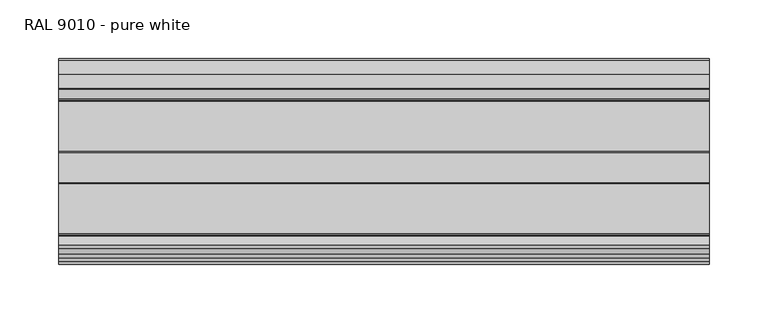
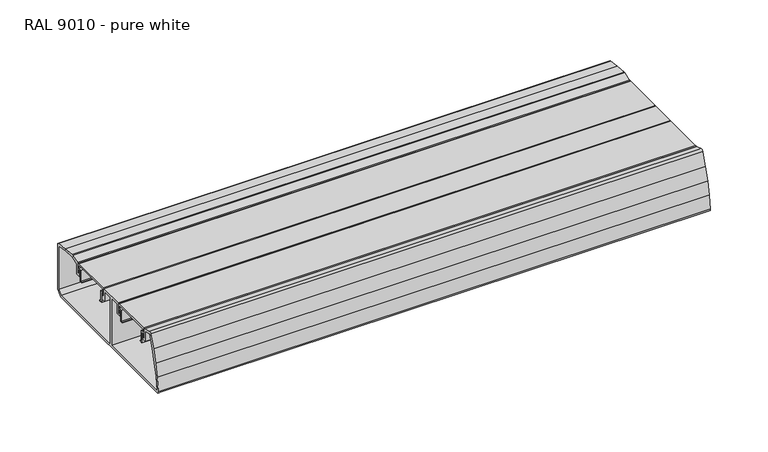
"""IFC4 building model written with IfcOpenShell, lengths in millimetres: proxy geometry, Electrical_Installations_Hager_GBD-Curved-Lid-End-Cap : RAL 9010 - pure white."""

from ifc_helpers import new_model, si_unit, point, frame, frame_2d, origin, place, context, project, spatial, polyline, circle_curve, trimmed, segment, composite_curve, outline, extrude, source, transform, mapped, element, save


def ral_9010_pure_white_fda1ee66(model_context):
    return source(origin(), model_context, "Body", "SweptSolid", [
        extrude(outline(composite_curve([segment(polyline([(-85.2368553, -25.0), (-6.25, -25.0), (-6.25, 25.0), (-15.95, 25.0), (-15.95, 14.96875), (-20.25, 14.96875), (-20.25, 18.7637258), (-19.25, 18.7637258), (-19.25, 16.3), (-17.75, 16.3), (-17.75, 27.0), (7.25, 27.0), (7.25, 16.3), (8.75, 16.3), (8.75, 18.7441115), (9.75, 18.7441115), (9.75, 14.5), (5.45, 14.5), (5.45, 25.0), (-4.25, 25.0), (-4.25, -25.0), (81.2473088, -25.0), (85.2, -21.0473088), (85.2, 25.0790901), (73.4084992, 26.7822965), (61.8792753, 27.7103781), (54.05, 25.1664923), (54.05, 14.5), (49.75, 14.5), (49.75, 18.7391101), (50.75, 18.7391101), (50.75, 16.3), (52.25, 16.3), (52.25, 26.2703589)]), True, "CONTINUOUS"), segment(trimmed(circle_curve(frame_2d((53.2542649, 26.2703589)), 1.0042649), [point((52.25, 26.2703589))], [point((52.94393, 27.2254715))], False, "CARTESIAN"), True, "CONTINUOUS"), segment(polyline([(52.94393, 27.2254715), (61.1647105, 29.896565)]), True, "CONTINUOUS"), segment(trimmed(circle_curve(frame_2d((61.8535718, 27.776468)), 2.229202), [point((61.1647105, 29.896565))], [point((62.0324399, 29.9984823))], False, "CARTESIAN"), True, "CONTINUOUS"), segment(polyline([(62.0324399, 29.9984823), (73.960524, 29.0382932), (85.7542621, 27.3347636)]), True, "CONTINUOUS"), segment(trimmed(circle_curve(frame_2d((85.4630616, 25.3187476)), 2.0369384), [point((85.7542621, 27.3347636))], [point((87.5, 25.3187476))], False, "CARTESIAN"), True, "CONTINUOUS"), segment(polyline([(87.5, 25.3187476), (87.5, -22.0), (82.5, -27.0), (-85.4371356, -27.0)]), True, "CONTINUOUS"), segment(trimmed(circle_curve(frame_2d((-85.4371356, -24.9109785)), 2.0890215), [point((-85.4371356, -27.0))], [point((-87.5045544, -24.6113283))], False, "CARTESIAN"), True, "CONTINUOUS"), segment(polyline([(-87.5045544, -24.6113283), (-85.4928777, -10.7318848), (-82.665273, 2.5001298), (-78.9366987, 15.5032139), (-74.2325269, 28.6175358)]), True, "CONTINUOUS"), segment(trimmed(circle_curve(frame_2d((-72.2816269, 27.9177383)), 2.0726137), [point((-74.2325269, 28.6175358))], [point((-71.641154, 29.8889111))], False, "CARTESIAN"), True, "CONTINUOUS"), segment(polyline([(-71.641154, 29.8889111), (-63.6327057, 27.2868085)]), True, "CONTINUOUS"), segment(trimmed(circle_curve(frame_2d((-63.9575866, 26.286928)), 1.0513366), [point((-63.6327057, 27.2868085))], [point((-62.90625, 26.286928))], False, "CARTESIAN"), True, "CONTINUOUS"), segment(polyline([(-62.90625, 26.286928), (-62.90625, 16.3), (-61.25, 16.3), (-61.25, 18.7177382), (-60.25, 18.7177382), (-60.25, 14.96875), (-64.55, 14.96875), (-64.55, 25.1664923), (-72.1420805, 27.6333088), (-76.7464574, 14.7971958), (-80.4325779, 1.9421659), (-83.2276507, -11.1376133), (-85.2368553, -25.0)]), True, "CONTINUOUS")], self_intersect=False)), frame((0.0, 0.0, 0.0), z_axis=(1.0, 0.0, 0.0), x_axis=(0.0, 1.0, 0.0)), (0.0, 0.0, 1.0), 552.9460818),
        extrude(outline(composite_curve([segment(polyline([(-19.317297, 25.7013932), (-61.217297, 25.7013932), (-61.217297, 22.4013932), (-57.767297, 22.4013932), (-57.767297, 10.8013932), (-55.867297, 10.8013932), (-55.867297, 10.0013932), (-58.767297, 10.0013932), (-58.767297, 21.4013932), (-61.5204385, 21.4013932), (-61.5204385, 17.0930522), (-62.5219845, 17.0930522), (-62.5219845, 26.2097868)]), True, "CONTINUOUS"), segment(trimmed(circle_curve(frame_2d((-61.6120226, 26.2097868)), 0.9099619), [point((-62.5219845, 26.2097868))], [point((-61.6120226, 27.1197487))], False, "CARTESIAN"), True, "CONTINUOUS"), segment(polyline([(-61.6120226, 27.1197487), (-19.1379774, 27.1197487)]), True, "CONTINUOUS"), segment(trimmed(circle_curve(frame_2d((-19.1379774, 26.1115683)), 1.0081804), [point((-19.1379774, 27.1197487))], [point((-18.129797, 26.1115683))], False, "CARTESIAN"), True, "CONTINUOUS"), segment(polyline([(-18.129797, 26.1115683), (-18.129797, 17.0930522), (-19.0141556, 17.0930522), (-19.0141556, 21.4013932), (-21.767297, 21.4013932), (-21.767297, 10.0013932), (-24.667297, 10.0013932), (-24.667297, 10.8013932), (-22.767297, 10.8013932), (-22.767297, 22.4013932), (-19.317297, 22.4013932), (-19.317297, 25.7013932)]), True, "CONTINUOUS")], self_intersect=False)), frame((0.0, 0.0, 0.0), z_axis=(1.0, 0.0, 0.0), x_axis=(0.0, 1.0, 0.0)), (0.0, 0.0, 1.0), 552.9460818),
        extrude(outline(composite_curve([segment(polyline([(50.7405963, 25.7013932), (8.8405963, 25.7013932), (8.8405963, 22.4013932), (12.2905963, 22.4013932), (12.2905963, 10.8013932), (14.1905963, 10.8013932), (14.1905963, 10.0013932), (11.2905963, 10.0013932), (11.2905963, 21.4013932), (8.5374548, 21.4013932), (8.5374548, 17.0930522), (7.5359088, 17.0930522), (7.5359088, 26.2097868)]), True, "CONTINUOUS"), segment(trimmed(circle_curve(frame_2d((8.4458707, 26.2097868)), 0.9099619), [point((7.5359088, 26.2097868))], [point((8.4458707, 27.1197487))], False, "CARTESIAN"), True, "CONTINUOUS"), segment(polyline([(8.4458707, 27.1197487), (50.9199159, 27.1197487)]), True, "CONTINUOUS"), segment(trimmed(circle_curve(frame_2d((50.9199159, 26.1115683)), 1.0081804), [point((50.9199159, 27.1197487))], [point((51.9280963, 26.1115683))], False, "CARTESIAN"), True, "CONTINUOUS"), segment(polyline([(51.9280963, 26.1115683), (51.9280963, 17.0930522), (51.0437378, 17.0930522), (51.0437378, 21.4013932), (48.2905963, 21.4013932), (48.2905963, 10.0013932), (45.3905963, 10.0013932), (45.3905963, 10.8013932), (47.2905963, 10.8013932), (47.2905963, 22.4013932), (50.7405963, 22.4013932), (50.7405963, 25.7013932)]), True, "CONTINUOUS")], self_intersect=False)), frame((0.0, 0.0, 0.0), z_axis=(1.0, 0.0, 0.0), x_axis=(0.0, 1.0, 0.0)), (0.0, 0.0, 1.0), 552.9460818),
    ])


if __name__ == "__main__":
    model = new_model("IFC4")
    model_context = context("Model", 3, world=origin())
    ifc_project = project(units=[si_unit("LENGTHUNIT", "METRE", prefix="MILLI")], contexts=[model_context])
    site = spatial("IfcSite", under=ifc_project)
    building = spatial("IfcBuilding", under=site)
    placement = place(None, origin())
    ral_9010_pure_white_shape = ral_9010_pure_white_fda1ee66(model_context)
    element("IfcBuildingElementProxy", 1, Name="Electrical_Installations_Hager_GBD-Curved-Lid-End-Cap : RAL 9010 - pure white", ObjectType="Electrical_Installations_Hager_GBD-Curved-Lid-End-Cap : RAL 9010 - pure white", at=placement, inside=building, context=model_context, shape_type="MappedRepresentation", body=[
        mapped(ral_9010_pure_white_shape, transform((0.0, 0.0, 0.0), x_axis=(1.0, 0.0, 0.0), y_axis=(0.0, 1.0, 0.0), z_axis=(0.0, 0.0, 1.0))),
    ])
    save(model, "model.ifc")
